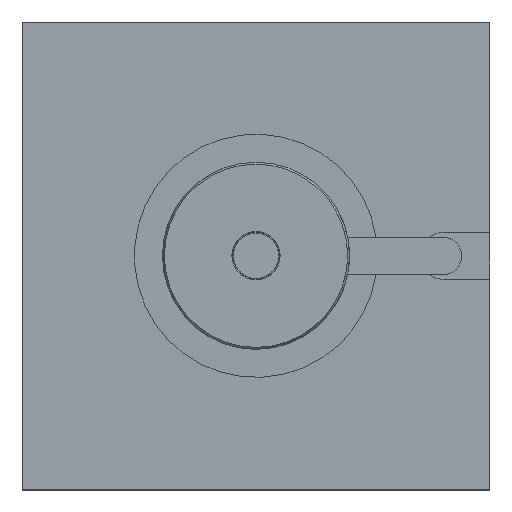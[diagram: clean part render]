
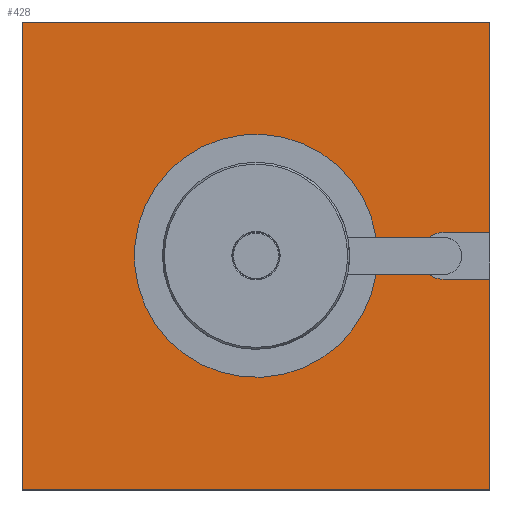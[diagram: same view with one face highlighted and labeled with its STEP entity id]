
A CAD part, top view. The second image highlights one B-rep face of the part: STEP entity #428.
In plain terms, the highlighted planar face has unit normal (0, 0, 1).
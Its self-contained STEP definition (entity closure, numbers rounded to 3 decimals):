
#428 = ADVANCED_FACE( '', ( #933 ), #934, .T. );
#933 = FACE_OUTER_BOUND( '', #1491, .T. );
#934 = PLANE( '', #1492 );
#1491 = EDGE_LOOP( '', ( #2432, #2433, #2434, #2435, #2436, #2437, #2438, #2439, #2440, #2441, #2442, #2443 ) );
#1492 = AXIS2_PLACEMENT_3D( '', #2444, #2445, #2446 );
#2432 = ORIENTED_EDGE( '', *, *, #2963, .F. );
#2433 = ORIENTED_EDGE( '', *, *, #2869, .F. );
#2434 = ORIENTED_EDGE( '', *, *, #3113, .F. );
#2435 = ORIENTED_EDGE( '', *, *, #3046, .F. );
#2436 = ORIENTED_EDGE( '', *, *, #2999, .T. );
#2437 = ORIENTED_EDGE( '', *, *, #2908, .T. );
#2438 = ORIENTED_EDGE( '', *, *, #3114, .T. );
#2439 = ORIENTED_EDGE( '', *, *, #2981, .T. );
#2440 = ORIENTED_EDGE( '', *, *, #3003, .T. );
#2441 = ORIENTED_EDGE( '', *, *, #3030, .F. );
#2442 = ORIENTED_EDGE( '', *, *, #3115, .F. );
#2443 = ORIENTED_EDGE( '', *, *, #2903, .F. );
#2444 = CARTESIAN_POINT( '', ( -125., -125., 0. ) );
#2445 = DIRECTION( '', ( 0., 0., 1. ) );
#2446 = DIRECTION( '', ( 0., -1., 0. ) );
#2869 = EDGE_CURVE( '', #3350, #3352, #3353, .T. );
#2903 = EDGE_CURVE( '', #3406, #3408, #3409, .T. );
#2908 = EDGE_CURVE( '', #3416, #3417, #3418, .T. );
#2963 = EDGE_CURVE( '', #3352, #3406, #3504, .T. );
#2981 = EDGE_CURVE( '', #3532, #3533, #3534, .T. );
#2999 = EDGE_CURVE( '', #3562, #3416, #3563, .T. );
#3003 = EDGE_CURVE( '', #3533, #3568, #3570, .T. );
#3030 = EDGE_CURVE( '', #3608, #3568, #3610, .T. );
#3046 = EDGE_CURVE( '', #3562, #3630, #3631, .T. );
#3113 = EDGE_CURVE( '', #3630, #3350, #3717, .T. );
#3114 = EDGE_CURVE( '', #3417, #3532, #3718, .T. );
#3115 = EDGE_CURVE( '', #3408, #3608, #3719, .T. );
#3350 = VERTEX_POINT( '', #4006 );
#3352 = VERTEX_POINT( '', #4009 );
#3353 = LINE( '', #4010, #4011 );
#3406 = VERTEX_POINT( '', #4092 );
#3408 = VERTEX_POINT( '', #4095 );
#3409 = LINE( '', #4096, #4097 );
#3416 = VERTEX_POINT( '', #4107 );
#3417 = VERTEX_POINT( '', #4108 );
#3418 = LINE( '', #4109, #4110 );
#3504 = CIRCLE( '', #4223, 65. );
#3532 = VERTEX_POINT( '', #4263 );
#3533 = VERTEX_POINT( '', #4264 );
#3534 = LINE( '', #4265, #4266 );
#3562 = VERTEX_POINT( '', #4305 );
#3563 = LINE( '', #4306, #4307 );
#3568 = VERTEX_POINT( '', #4314 );
#3570 = LINE( '', #4317, #4318 );
#3608 = VERTEX_POINT( '', #4367 );
#3610 = LINE( '', #4370, #4371 );
#3630 = VERTEX_POINT( '', #4400 );
#3631 = LINE( '', #4401, #4402 );
#3717 = CIRCLE( '', #4511, 12.5 );
#3718 = LINE( '', #4512, #4513 );
#3719 = CIRCLE( '', #4514, 12.5 );
#4006 = CARTESIAN_POINT( '', ( 92.5, 10., 0. ) );
#4009 = CARTESIAN_POINT( '', ( 64.226, 10., 0. ) );
#4010 = CARTESIAN_POINT( '', ( 100., 10., 0. ) );
#4011 = VECTOR( '', #4768, 1000. );
#4092 = CARTESIAN_POINT( '', ( 64.226, -10., 0. ) );
#4095 = CARTESIAN_POINT( '', ( 92.5, -10., 0. ) );
#4096 = CARTESIAN_POINT( '', ( 0., -10., 0. ) );
#4097 = VECTOR( '', #4803, 1000. );
#4107 = CARTESIAN_POINT( '', ( 125., 125., 0. ) );
#4108 = CARTESIAN_POINT( '', ( -125., 125., 0. ) );
#4109 = CARTESIAN_POINT( '', ( 125., 125., 0. ) );
#4110 = VECTOR( '', #4807, 1000. );
#4223 = AXIS2_PLACEMENT_3D( '', #4877, #4878, #4879 );
#4263 = CARTESIAN_POINT( '', ( -125., -125., 0. ) );
#4264 = CARTESIAN_POINT( '', ( 125., -125., 0. ) );
#4265 = CARTESIAN_POINT( '', ( -125., -125., 0. ) );
#4266 = VECTOR( '', #4898, 1000. );
#4305 = CARTESIAN_POINT( '', ( 125., 12.5, 0. ) );
#4306 = CARTESIAN_POINT( '', ( 125., -125., 0. ) );
#4307 = VECTOR( '', #4917, 1000. );
#4314 = CARTESIAN_POINT( '', ( 125., -12.5, 0. ) );
#4317 = CARTESIAN_POINT( '', ( 125., -125., 0. ) );
#4318 = VECTOR( '', #4921, 1000. );
#4367 = CARTESIAN_POINT( '', ( 100., -12.5, 0. ) );
#4370 = CARTESIAN_POINT( '', ( 100., -12.5, 0. ) );
#4371 = VECTOR( '', #4949, 1000. );
#4400 = CARTESIAN_POINT( '', ( 100., 12.5, 0. ) );
#4401 = CARTESIAN_POINT( '', ( 148.185, 12.5, 0. ) );
#4402 = VECTOR( '', #4962, 1000. );
#4511 = AXIS2_PLACEMENT_3D( '', #5036, #5037, #5038 );
#4512 = CARTESIAN_POINT( '', ( -125., 125., 0. ) );
#4513 = VECTOR( '', #5039, 1000. );
#4514 = AXIS2_PLACEMENT_3D( '', #5040, #5041, #5042 );
#4768 = DIRECTION( '', ( -1., 0., 0. ) );
#4803 = DIRECTION( '', ( 1., 0., 0. ) );
#4807 = DIRECTION( '', ( -1., 0., 0. ) );
#4877 = CARTESIAN_POINT( '', ( 0., 0., 0. ) );
#4878 = DIRECTION( '', ( 0., 0., 1. ) );
#4879 = DIRECTION( '', ( 1., 0., 0. ) );
#4898 = DIRECTION( '', ( 1., 0., 0. ) );
#4917 = DIRECTION( '', ( 0., 1., 0. ) );
#4921 = DIRECTION( '', ( 0., 1., 0. ) );
#4949 = DIRECTION( '', ( 1., 0., 0. ) );
#4962 = DIRECTION( '', ( -1., 0., 0. ) );
#5036 = CARTESIAN_POINT( '', ( 100., 0., 0. ) );
#5037 = DIRECTION( '', ( 0., 0., 1. ) );
#5038 = DIRECTION( '', ( 0., 1., 0. ) );
#5039 = DIRECTION( '', ( 0., -1., 0. ) );
#5040 = CARTESIAN_POINT( '', ( 100., 0., 0. ) );
#5041 = DIRECTION( '', ( 0., 0., 1. ) );
#5042 = DIRECTION( '', ( 0., 1., 0. ) );
